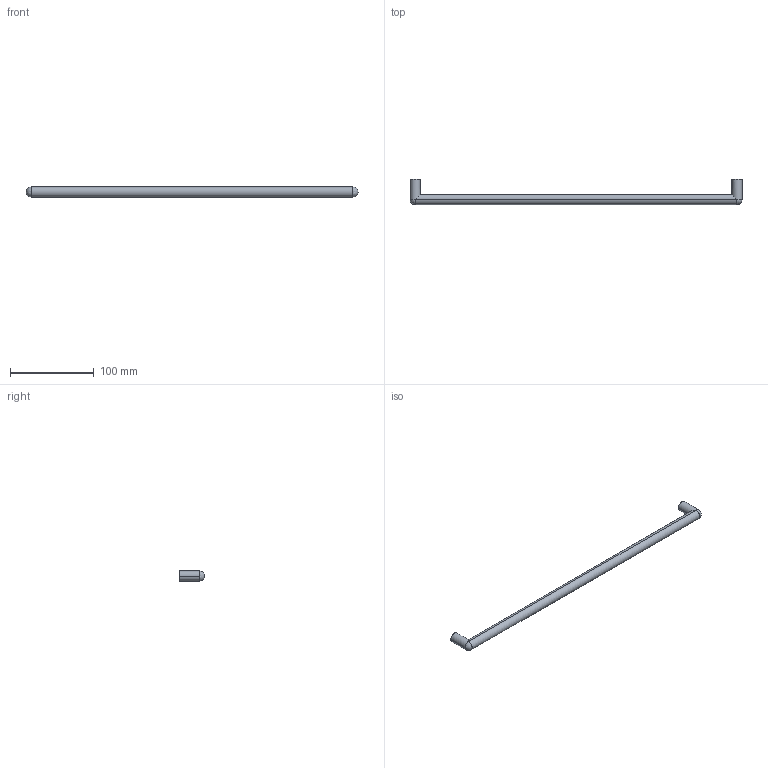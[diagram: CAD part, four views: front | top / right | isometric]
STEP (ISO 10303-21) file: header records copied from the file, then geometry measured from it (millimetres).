
FILE_DESCRIPTION( ( '' ), '1' );
FILE_NAME( 'D:/1.AUTOCAD EXPORT/Group 10/sheet_10_1/ 9070979.stp', '2013-10-17T08:25:10', ( '' ), ( '' ), ' ', ' ', ' ' );
FILE_SCHEMA( ( 'automotive_design' ) );
Length unit declared in the file: millimetre
Products named in the file (1): 1
Bounding box: 396 x 30 x 12 mm (x, y, z)
Volume: 48341.7 mm3; surface area: 16764.6 mm2
Topology: 1 solids, 1 shells, 16 faces, 36 edges, 20 vertices
Faces by surface type: cylinder 10, plane 4, sphere 2
Entity records: 838 total; most frequent: DIRECTION 88, STYLED_ITEM 69, PRESENTATION_STYLE_ASSIGNMENT 69, CARTESIAN_POINT 69, COLOUR_RGB 69, ORIENTED_EDGE 64, AXIS2_PLACEMENT_3D 39, EDGE_CURVE 32
